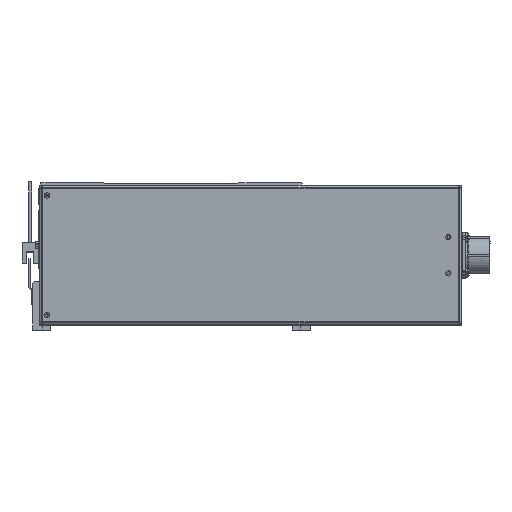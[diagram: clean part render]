
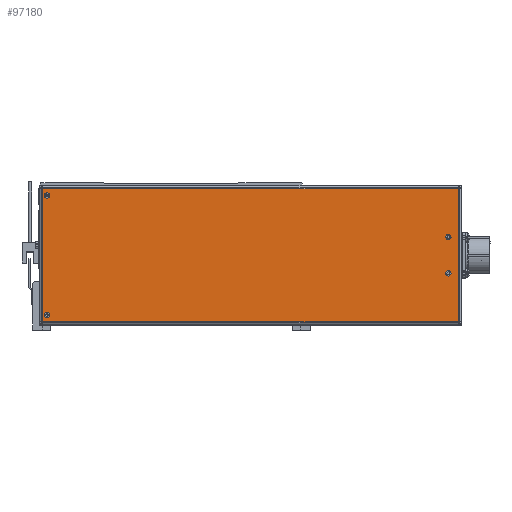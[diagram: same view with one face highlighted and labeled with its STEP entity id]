
A CAD part, front view. The second image highlights one B-rep face of the part: STEP entity #97180.
In plain terms, the highlighted planar face has unit normal (0, -1, 0) as drawn and (0, 0, 1) by its records, which use the part's own axes.
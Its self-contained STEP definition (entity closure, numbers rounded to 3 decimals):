
#806 = DIRECTION ( 'NONE',  ( 1., 0., 0. ) ) ;
#2687 = CARTESIAN_POINT ( 'NONE',  ( 516.25, 49.5, 72. ) ) ;
#2877 = VERTEX_POINT ( 'NONE', #55738 ) ;
#5858 = CARTESIAN_POINT ( 'NONE',  ( 518.5, -49.5, 72. ) ) ;
#7229 = FACE_BOUND ( 'NONE', #45102, .T. ) ;
#7783 = VERTEX_POINT ( 'NONE', #21770 ) ;
#8244 = DIRECTION ( 'NONE',  ( 1., 0., 0. ) ) ;
#9271 = LINE ( 'NONE', #24017, #56560 ) ;
#9379 = EDGE_LOOP ( 'NONE', ( #71152, #92948 ) ) ;
#9994 = EDGE_CURVE ( 'NONE', #64284, #7783, #67399, .T. ) ;
#11976 = VECTOR ( 'NONE', #44657, 1000. ) ;
#12892 = ORIENTED_EDGE ( 'NONE', *, *, #46288, .F. ) ;
#13686 = ORIENTED_EDGE ( 'NONE', *, *, #65100, .F. ) ;
#15172 = ORIENTED_EDGE ( 'NONE', *, *, #27740, .T. ) ;
#15549 = LINE ( 'NONE', #90855, #11976 ) ;
#15839 = CARTESIAN_POINT ( 'NONE',  ( 186., 15., 72. ) ) ;
#15916 = AXIS2_PLACEMENT_3D ( 'NONE', #22492, #68405, #91375 ) ;
#17061 = PLANE ( 'NONE',  #80310 ) ;
#17192 = DIRECTION ( 'NONE',  ( 1., 0., 0. ) ) ;
#18726 = VERTEX_POINT ( 'NONE', #68463 ) ;
#19180 = ORIENTED_EDGE ( 'NONE', *, *, #9994, .T. ) ;
#21770 = CARTESIAN_POINT ( 'NONE',  ( 522.26, 55.26, 72. ) ) ;
#22492 = CARTESIAN_POINT ( 'NONE',  ( 186., -15., 72. ) ) ;
#23656 = DIRECTION ( 'NONE',  ( -1., 0., 0. ) ) ;
#24017 = CARTESIAN_POINT ( 'NONE',  ( 522.293, 55.26, 72. ) ) ;
#24325 = EDGE_LOOP ( 'NONE', ( #39545, #12892 ) ) ;
#25456 = EDGE_CURVE ( 'NONE', #93001, #89327, #42686, .T. ) ;
#27740 = EDGE_CURVE ( 'NONE', #7783, #80249, #9271, .T. ) ;
#28010 = AXIS2_PLACEMENT_3D ( 'NONE', #78795, #63024, #8244 ) ;
#33859 = EDGE_CURVE ( 'NONE', #61348, #93274, #69097, .T. ) ;
#34125 = ORIENTED_EDGE ( 'NONE', *, *, #35197, .T. ) ;
#34197 = AXIS2_PLACEMENT_3D ( 'NONE', #43818, #74098, #90326 ) ;
#35197 = EDGE_CURVE ( 'NONE', #80249, #18726, #15549, .T. ) ;
#35855 = CIRCLE ( 'NONE', #63629, 2.25 ) ;
#35921 = VECTOR ( 'NONE', #48422, 1000. ) ;
#35966 = CIRCLE ( 'NONE', #53528, 2.25 ) ;
#37759 = ORIENTED_EDGE ( 'NONE', *, *, #42504, .F. ) ;
#37954 = DIRECTION ( 'NONE',  ( 0., 0., 1. ) ) ;
#37959 = ORIENTED_EDGE ( 'NONE', *, *, #73653, .F. ) ;
#38409 = ORIENTED_EDGE ( 'NONE', *, *, #51033, .T. ) ;
#39545 = ORIENTED_EDGE ( 'NONE', *, *, #33859, .F. ) ;
#42081 = VECTOR ( 'NONE', #89629, 1000. ) ;
#42504 = EDGE_CURVE ( 'NONE', #2877, #54554, #56666, .T. ) ;
#42572 = DIRECTION ( 'NONE',  ( 1., 0., 0. ) ) ;
#42686 = CIRCLE ( 'NONE', #28010, 2.25 ) ;
#43558 = DIRECTION ( 'NONE',  ( 0., 0., 1. ) ) ;
#43791 = CARTESIAN_POINT ( 'NONE',  ( 522.26, -55.293, 72. ) ) ;
#43818 = CARTESIAN_POINT ( 'NONE',  ( 518.5, -49.5, 72. ) ) ;
#43991 = CIRCLE ( 'NONE', #15916, 2.25 ) ;
#44450 = DIRECTION ( 'NONE',  ( 1., 0., 0. ) ) ;
#44657 = DIRECTION ( 'NONE',  ( 0., -1., 0. ) ) ;
#45102 = EDGE_LOOP ( 'NONE', ( #37959, #13686 ) ) ;
#46288 = EDGE_CURVE ( 'NONE', #93274, #61348, #91932, .T. ) ;
#46535 = CARTESIAN_POINT ( 'NONE',  ( 183.75, 15., 72. ) ) ;
#47195 = EDGE_CURVE ( 'NONE', #54554, #2877, #96863, .T. ) ;
#48054 = CARTESIAN_POINT ( 'NONE',  ( 177.707, -55.26, 72. ) ) ;
#48422 = DIRECTION ( 'NONE',  ( 1., 0., 0. ) ) ;
#49060 = CARTESIAN_POINT ( 'NONE',  ( 177.74, 55.26, 72. ) ) ;
#51033 = EDGE_CURVE ( 'NONE', #18726, #64284, #74492, .T. ) ;
#51246 = VERTEX_POINT ( 'NONE', #74933 ) ;
#52852 = DIRECTION ( 'NONE',  ( 0., 0., 1. ) ) ;
#53528 = AXIS2_PLACEMENT_3D ( 'NONE', #89719, #43558, #42572 ) ;
#54554 = VERTEX_POINT ( 'NONE', #83610 ) ;
#55738 = CARTESIAN_POINT ( 'NONE',  ( 516.25, -49.5, 72. ) ) ;
#55770 = DIRECTION ( 'NONE',  ( 0., 0., 1. ) ) ;
#56560 = VECTOR ( 'NONE', #23656, 1000. ) ;
#56666 = CIRCLE ( 'NONE', #34197, 2.25 ) ;
#61348 = VERTEX_POINT ( 'NONE', #70819 ) ;
#63024 = DIRECTION ( 'NONE',  ( 0., 0., 1. ) ) ;
#63040 = CARTESIAN_POINT ( 'NONE',  ( 350., 0., 72. ) ) ;
#63629 = AXIS2_PLACEMENT_3D ( 'NONE', #15839, #55770, #17192 ) ;
#64284 = VERTEX_POINT ( 'NONE', #74981 ) ;
#65100 = EDGE_CURVE ( 'NONE', #51246, #80196, #43991, .T. ) ;
#65271 = FACE_BOUND ( 'NONE', #24325, .T. ) ;
#66513 = FACE_OUTER_BOUND ( 'NONE', #88158, .T. ) ;
#66880 = AXIS2_PLACEMENT_3D ( 'NONE', #99389, #52852, #91620 ) ;
#67399 = LINE ( 'NONE', #43791, #42081 ) ;
#67696 = DIRECTION ( 'NONE',  ( 0., 0., 1. ) ) ;
#68405 = DIRECTION ( 'NONE',  ( 0., 0., 1. ) ) ;
#68463 = CARTESIAN_POINT ( 'NONE',  ( 177.74, -55.26, 72. ) ) ;
#69097 = CIRCLE ( 'NONE', #69302, 2.25 ) ;
#69302 = AXIS2_PLACEMENT_3D ( 'NONE', #99076, #67696, #44450 ) ;
#70819 = CARTESIAN_POINT ( 'NONE',  ( 520.75, 49.5, 72. ) ) ;
#71152 = ORIENTED_EDGE ( 'NONE', *, *, #25456, .F. ) ;
#73653 = EDGE_CURVE ( 'NONE', #80196, #51246, #35966, .T. ) ;
#74098 = DIRECTION ( 'NONE',  ( 0., 0., 1. ) ) ;
#74492 = LINE ( 'NONE', #48054, #35921 ) ;
#74933 = CARTESIAN_POINT ( 'NONE',  ( 183.75, -15., 72. ) ) ;
#74981 = CARTESIAN_POINT ( 'NONE',  ( 522.26, -55.26, 72. ) ) ;
#75010 = CARTESIAN_POINT ( 'NONE',  ( 188.25, 15., 72. ) ) ;
#77442 = EDGE_CURVE ( 'NONE', #89327, #93001, #35855, .T. ) ;
#78795 = CARTESIAN_POINT ( 'NONE',  ( 186., 15., 72. ) ) ;
#79437 = EDGE_LOOP ( 'NONE', ( #95850, #37759 ) ) ;
#80196 = VERTEX_POINT ( 'NONE', #94239 ) ;
#80249 = VERTEX_POINT ( 'NONE', #49060 ) ;
#80310 = AXIS2_PLACEMENT_3D ( 'NONE', #63040, #93375, #806 ) ;
#83610 = CARTESIAN_POINT ( 'NONE',  ( 520.75, -49.5, 72. ) ) ;
#88158 = EDGE_LOOP ( 'NONE', ( #15172, #34125, #38409, #19180 ) ) ;
#89327 = VERTEX_POINT ( 'NONE', #46535 ) ;
#89629 = DIRECTION ( 'NONE',  ( 0., 1., 0. ) ) ;
#89719 = CARTESIAN_POINT ( 'NONE',  ( 186., -15., 72. ) ) ;
#90326 = DIRECTION ( 'NONE',  ( 1., 0., 0. ) ) ;
#90855 = CARTESIAN_POINT ( 'NONE',  ( 177.74, 55.293, 72. ) ) ;
#91375 = DIRECTION ( 'NONE',  ( 1., 0., 0. ) ) ;
#91620 = DIRECTION ( 'NONE',  ( 1., 0., 0. ) ) ;
#91932 = CIRCLE ( 'NONE', #66880, 2.25 ) ;
#91960 = DIRECTION ( 'NONE',  ( 1., 0., 0. ) ) ;
#92948 = ORIENTED_EDGE ( 'NONE', *, *, #77442, .F. ) ;
#93000 = FACE_BOUND ( 'NONE', #79437, .T. ) ;
#93001 = VERTEX_POINT ( 'NONE', #75010 ) ;
#93274 = VERTEX_POINT ( 'NONE', #2687 ) ;
#93375 = DIRECTION ( 'NONE',  ( 0., 0., 1. ) ) ;
#93448 = AXIS2_PLACEMENT_3D ( 'NONE', #5858, #37954, #91960 ) ;
#94239 = CARTESIAN_POINT ( 'NONE',  ( 188.25, -15., 72. ) ) ;
#95850 = ORIENTED_EDGE ( 'NONE', *, *, #47195, .F. ) ;
#96863 = CIRCLE ( 'NONE', #93448, 2.25 ) ;
#97180 = ADVANCED_FACE ( 'NONE', ( #97862, #7229, #65271, #93000, #66513 ), #17061, .T. ) ;
#97862 = FACE_BOUND ( 'NONE', #9379, .T. ) ;
#99076 = CARTESIAN_POINT ( 'NONE',  ( 518.5, 49.5, 72. ) ) ;
#99389 = CARTESIAN_POINT ( 'NONE',  ( 518.5, 49.5, 72. ) ) ;
